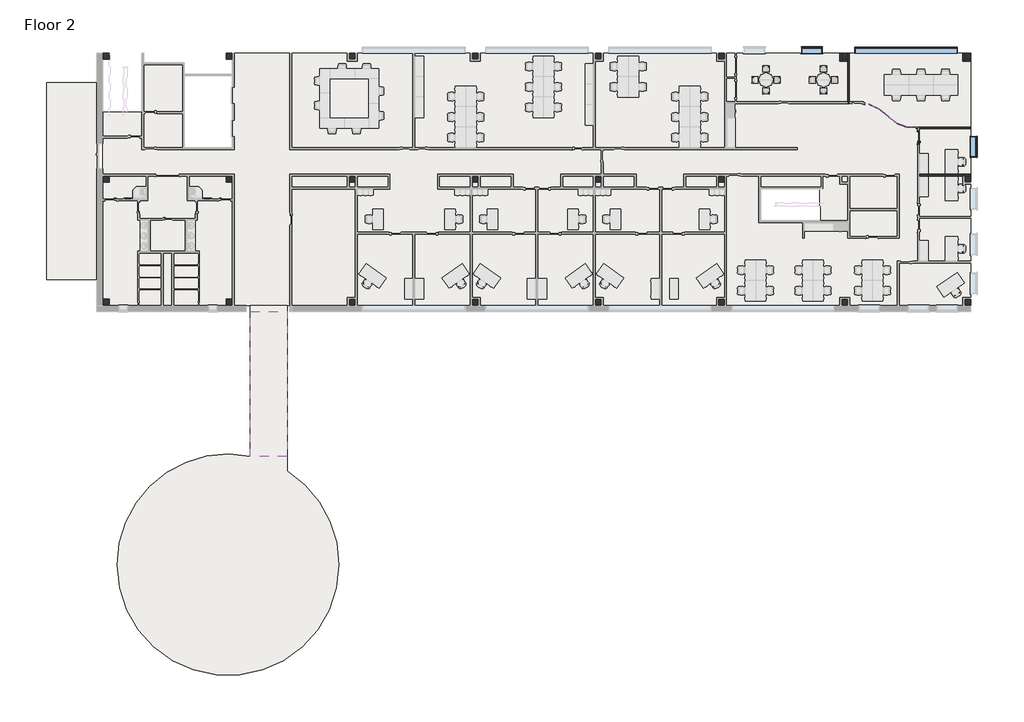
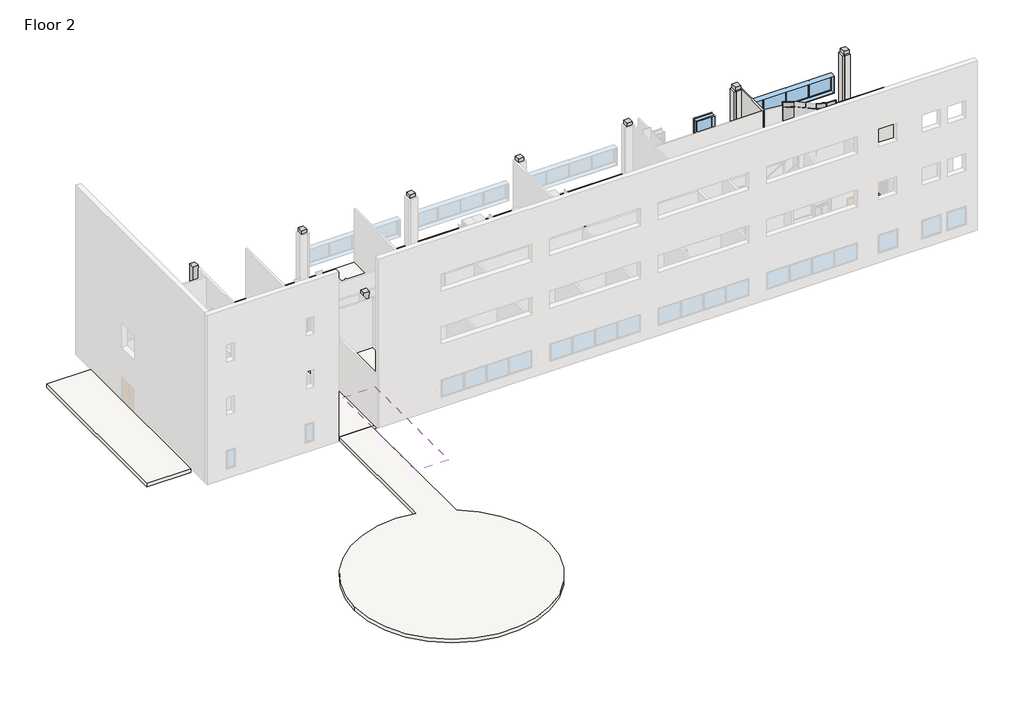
# One storey, part 5 of 7: 25 members, 23 columns, 9 plates, 9 walls, 3 slabs, 3 windows, 1 covering, 1 door.
"""IFC4 building model written with IfcOpenShell, lengths in millimetres."""

from ifc_helpers import new_model, si_unit, point, frame, frame_2d, origin, place, context, project, spatial, polyline, circle_curve, trimmed, segment, composite_curve, outline, extrude, faceted_brep, transform, mapped, element, save
from components import column_f6efb254, door_b5f71497, member_a9d6c361, member_b6f680d5, member_997af995, member_99ddd2ca, member_efb85692, member_ea1833a9, member_f42e476a, member_8995069b, member_c703cf53, member_4057df82, member_b5c0ee63, member_6a737cc0, member_2ca0dabc, member_3a403b9d, member_f4e4bb89, system_panel_glazed_970fcf6f, system_panel_glazed_1b99a4e4, system_panel_glazed_e012e687, system_panel_glazed_c5ee2139, system_panel_glazed_4739128b, system_panel_glazed_f263d929, system_panel_glazed_9a7f91f8, system_panel_glazed_b32ab771, system_panel_glazed_0122b756, window_casement_multi_sash_horizontal_25_x_5ft_0e5d08e3, window_45f0c9e0

model = new_model("IFC4")

# Units and contexts
model_context = context("Model", 3, world=origin())
ifc_project = project(units=[si_unit("LENGTHUNIT", "METRE", prefix="MILLI")], contexts=[model_context])

# Site, building, storey
site = spatial("IfcSite", under=ifc_project)
building = spatial("IfcBuilding", under=site)
storey = spatial("IfcBuildingStorey", under=building, Name="Floor 2", Elevation=5486.4)

# Columns
placement = place(None, origin())
element("IfcColumn", 1, ObjectType="Rectangular Column1 : 18\" x 18\"", at=placement, inside=storey, context=model_context, shape_type="SweptSolid", body=[
    extrude(outline(polyline([(6637.3692024, 39077.111889), (6637.3692024, 38619.911889), (6180.1692024, 38619.911889), (6180.1692024, 39077.111889), (6637.3692024, 39077.111889)])), frame((0.0, 0.0, 5486.4), z_axis=(0.0, 0.0, 1.0), x_axis=(1.0, 0.0, 0.0)), (0.0, 0.0, 1.0), 4724.4),
])
element("IfcColumn", 2, ObjectType="Rectangular Column1 : 18\" x 18\"", at=placement, inside=storey, context=model_context, shape_type="Brep", body=[
    faceted_brep([(15781.3692024, 39077.111889, 10210.8), (15324.1692024, 39077.111889, 10210.8), (15324.1692024, 38619.911889, 10210.8), (15781.3692024, 38619.911889, 10210.8), (15781.3692024, 39077.111889, 5486.4), (15781.3692024, 38619.911889, 5486.4), (15324.1692024, 38619.911889, 5486.4), (15324.1692024, 39077.111889, 5486.4), (15781.3692024, 39077.111889, 9906.0), (15324.1692024, 39077.111889, 9906.0)], [[[0, 1, 2, 3]], [[4, 5, 6, 7]], [[1, 0, 8, 4, 7, 9]], [[2, 1, 9, 7, 6]], [[3, 2, 6, 5]], [[0, 3, 5, 4, 8]]]),
])
element("IfcColumn", 3, ObjectType="Rectangular Column1 : 18\" x 18\"", at=placement, inside=storey, context=model_context, shape_type="Brep", body=[
    faceted_brep([(24925.3692024, 39077.111889, 10210.8), (24468.1692024, 39077.111889, 10210.8), (24468.1692024, 38619.911889, 10210.8), (24925.3692024, 38619.911889, 10210.8), (24925.3692024, 39077.111889, 5486.4), (24925.3692024, 38619.911889, 5486.4), (24468.1692024, 38619.911889, 5486.4), (24468.1692024, 39077.111889, 5486.4), (24925.3692024, 39077.111889, 9906.0), (24468.1692024, 39077.111889, 9906.0)], [[[0, 1, 2, 3]], [[4, 5, 6, 7]], [[1, 0, 8, 4, 7, 9]], [[2, 1, 9, 7, 6]], [[3, 2, 6, 5]], [[0, 3, 5, 4, 8]]]),
])
element("IfcColumn", 4, ObjectType="Rectangular Column1 : 18\" x 18\"", at=placement, inside=storey, context=model_context, shape_type="Brep", body=[
    faceted_brep([(34069.3692024, 39077.111889, 10210.8), (33612.1692024, 39077.111889, 10210.8), (33612.1692024, 38619.911889, 10210.8), (34069.3692024, 38619.911889, 10210.8), (34069.3692024, 39077.111889, 5486.4), (34069.3692024, 38619.911889, 5486.4), (33612.1692024, 38619.911889, 5486.4), (33612.1692024, 39077.111889, 5486.4), (34069.3692024, 39077.111889, 9906.0), (33612.1692024, 39077.111889, 9906.0)], [[[0, 1, 2, 3]], [[4, 5, 6, 7]], [[1, 0, 8, 4, 7, 9]], [[2, 1, 9, 7, 6]], [[3, 2, 6, 5]], [[0, 3, 5, 4, 8]]]),
])
element("IfcColumn", 5, ObjectType="Rectangular Column1 : 18\" x 18\"", at=placement, inside=storey, context=model_context, shape_type="Brep", body=[
    faceted_brep([(43213.3692024, 39077.111889, 10210.8), (42756.1692024, 39077.111889, 10210.8), (42756.1692024, 38619.911889, 10210.8), (43213.3692024, 38619.911889, 10210.8), (43213.3692024, 39077.111889, 5486.4), (43213.3692024, 38619.911889, 5486.4), (42756.1692024, 38619.911889, 5486.4), (42756.1692024, 39077.111889, 5486.4), (43213.3692024, 39077.111889, 9906.0), (42756.1692024, 39077.111889, 9906.0)], [[[0, 1, 2, 3]], [[4, 5, 6, 7]], [[1, 0, 8, 4, 7, 9]], [[2, 1, 9, 7, 6]], [[3, 2, 6, 5]], [[0, 3, 5, 4, 8]]]),
])
element("IfcColumn", 6, ObjectType="Rectangular Column1 : 18\" x 18\"", at=placement, inside=storey, context=model_context, shape_type="Brep", body=[
    faceted_brep([(52357.3692024, 39077.111889, 10210.8), (51900.1692024, 39077.111889, 10210.8), (51900.1692024, 38619.911889, 10210.8), (52357.3692024, 38619.911889, 10210.8), (52357.3692024, 39077.111889, 5486.4), (52357.3692024, 38619.911889, 5486.4), (51900.1692024, 38619.911889, 5486.4), (51900.1692024, 39077.111889, 5486.4), (52357.3692024, 39077.111889, 9906.0), (51900.1692024, 39077.111889, 9906.0)], [[[0, 1, 2, 3]], [[4, 5, 6, 7]], [[1, 0, 8, 4, 7, 9]], [[2, 1, 9, 7, 6]], [[3, 2, 6, 5]], [[0, 3, 5, 4, 8]]]),
])
element("IfcColumn", 7, ObjectType="Rectangular Column1 : 18\" x 18\"", at=placement, inside=storey, context=model_context, shape_type="Brep", body=[
    faceted_brep([(61501.3692024, 39077.111889, 10210.8), (61044.1692024, 39077.111889, 10210.8), (61044.1692024, 38619.911889, 10210.8), (61501.3692024, 38619.911889, 10210.8), (61501.3692024, 39077.111889, 5486.4), (61501.3692024, 38619.911889, 5486.4), (61044.1692024, 38619.911889, 5486.4), (61044.1692024, 39077.111889, 5486.4), (61044.1692024, 39077.111889, 9906.0)], [[[0, 1, 2, 3]], [[4, 5, 6, 7]], [[1, 0, 4, 7, 8]], [[2, 1, 8, 7, 6]], [[3, 2, 6, 5]], [[0, 3, 5, 4]]]),
])
element("IfcColumn", 8, ObjectType="Rectangular Column1 : 18\" x 18\"", at=placement, inside=storey, context=model_context, shape_type="SweptSolid", body=[
    extrude(outline(polyline([(-2506.6307976, 48221.111889), (-2506.6307976, 47763.911889), (-2963.8307976, 47763.911889), (-2963.8307976, 48221.111889), (-2506.6307976, 48221.111889)])), frame((0.0, 0.0, 5486.4), z_axis=(0.0, 0.0, 1.0), x_axis=(1.0, 0.0, 0.0)), (0.0, 0.0, 1.0), 4724.4),
])
element("IfcColumn", 9, ObjectType="Rectangular Column1 : 18\" x 18\"", at=placement, inside=storey, context=model_context, shape_type="SweptSolid", body=[
    extrude(outline(polyline([(6637.3692024, 48221.111889), (6637.3692024, 47763.911889), (6180.1692024, 47763.911889), (6180.1692024, 48221.111889), (6637.3692024, 48221.111889)])), frame((0.0, 0.0, 5486.4), z_axis=(0.0, 0.0, 1.0), x_axis=(1.0, 0.0, 0.0)), (0.0, 0.0, 1.0), 4724.4),
])
element("IfcColumn", 10, ObjectType="Rectangular Column1 : 18\" x 18\"", at=placement, inside=storey, context=model_context, shape_type="Brep", body=[
    faceted_brep([(15781.3692024, 48221.111889, 10210.8), (15324.1692024, 48221.111889, 10210.8), (15324.1692024, 47763.911889, 10210.8), (15781.3692024, 47763.911889, 10210.8), (15781.3692024, 48221.111889, 5486.4), (15781.3692024, 47763.911889, 5486.4), (15324.1692024, 47763.911889, 5486.4), (15324.1692024, 48221.111889, 5486.4), (15781.3692024, 48221.111889, 9906.0), (15324.1692024, 48221.111889, 9906.0)], [[[0, 1, 2, 3]], [[4, 5, 6, 7]], [[1, 0, 8, 4, 7, 9]], [[2, 1, 9, 7, 6]], [[3, 2, 6, 5]], [[0, 3, 5, 4, 8]]]),
])
element("IfcColumn", 11, ObjectType="Rectangular Column1 : 18\" x 18\"", at=placement, inside=storey, context=model_context, shape_type="Brep", body=[
    faceted_brep([(24925.3692024, 48221.111889, 10210.8), (24468.1692024, 48221.111889, 10210.8), (24468.1692024, 47763.911889, 10210.8), (24925.3692024, 47763.911889, 10210.8), (24925.3692024, 48221.111889, 5486.4), (24925.3692024, 47763.911889, 5486.4), (24468.1692024, 47763.911889, 5486.4), (24468.1692024, 48221.111889, 5486.4), (24925.3692024, 48221.111889, 9906.0), (24468.1692024, 48221.111889, 9906.0)], [[[0, 1, 2, 3]], [[4, 5, 6, 7]], [[1, 0, 8, 4, 7, 9]], [[2, 1, 9, 7, 6]], [[3, 2, 6, 5]], [[0, 3, 5, 4, 8]]]),
])
element("IfcColumn", 12, ObjectType="Rectangular Column1 : 18\" x 18\"", at=placement, inside=storey, context=model_context, shape_type="Brep", body=[
    faceted_brep([(34069.3692024, 48221.111889, 10210.8), (33612.1692024, 48221.111889, 10210.8), (33612.1692024, 47763.911889, 10210.8), (34069.3692024, 47763.911889, 10210.8), (34069.3692024, 48221.111889, 5486.4), (34069.3692024, 47763.911889, 5486.4), (33612.1692024, 47763.911889, 5486.4), (33612.1692024, 48221.111889, 5486.4), (34069.3692024, 48221.111889, 9906.0), (33612.1692024, 48221.111889, 9906.0)], [[[0, 1, 2, 3]], [[4, 5, 6, 7]], [[1, 0, 8, 4, 7, 9]], [[2, 1, 9, 7, 6]], [[3, 2, 6, 5]], [[0, 3, 5, 4, 8]]]),
])
element("IfcColumn", 13, ObjectType="Rectangular Column1 : 18\" x 18\"", at=placement, inside=storey, context=model_context, shape_type="Brep", body=[
    faceted_brep([(43213.3692024, 48221.111889, 10210.8), (42756.1692024, 48221.111889, 10210.8), (42756.1692024, 47763.911889, 10210.8), (43213.3692024, 47763.911889, 10210.8), (43213.3692024, 48221.111889, 5486.4), (43213.3692024, 47763.911889, 5486.4), (42756.1692024, 47763.911889, 5486.4), (42756.1692024, 48221.111889, 5486.4), (43213.3692024, 48221.111889, 9906.0), (42756.1692024, 48221.111889, 9906.0)], [[[0, 1, 2, 3]], [[4, 5, 6, 7]], [[1, 0, 8, 4, 7, 9]], [[2, 1, 9, 7, 6]], [[3, 2, 6, 5]], [[0, 3, 5, 4, 8]]]),
])
element("IfcColumn", 14, ObjectType="Rectangular Column1 : 18\" x 18\"", at=placement, inside=storey, context=model_context, shape_type="Brep", body=[
    faceted_brep([(61501.3692024, 48221.111889, 10210.8), (61044.1692024, 48221.111889, 10210.8), (61044.1692024, 47763.911889, 10210.8), (61501.3692024, 47763.911889, 10210.8), (61501.3692024, 48221.111889, 5486.4), (61501.3692024, 47763.911889, 5486.4), (61044.1692024, 47763.911889, 5486.4), (61044.1692024, 48221.111889, 5486.4), (61044.1692024, 48221.111889, 9906.0), (61044.1692024, 47763.911889, 9906.0)], [[[0, 1, 2, 3]], [[4, 5, 6, 7]], [[1, 0, 4, 7, 8]], [[2, 1, 8, 7, 6, 9]], [[3, 2, 9, 6, 5]], [[0, 3, 5, 4]]]),
])
element("IfcColumn", 15, ObjectType="Rectangular Column1 : 18\" x 18\"", at=placement, inside=storey, context=model_context, shape_type="SweptSolid", body=[
    extrude(outline(polyline([(6637.3692024, 57365.111889), (6637.3692024, 56907.911889), (6180.1692024, 56907.911889), (6180.1692024, 57365.111889), (6637.3692024, 57365.111889)])), frame((0.0, 0.0, 5486.4), z_axis=(0.0, 0.0, 1.0), x_axis=(1.0, 0.0, 0.0)), (0.0, 0.0, 1.0), 4724.4),
])
element("IfcColumn", 16, ObjectType="Rectangular Column1 : 18\" x 18\"", at=placement, inside=storey, context=model_context, shape_type="Brep", body=[
    faceted_brep([(15781.3692024, 57365.111889, 10210.8), (15324.1692024, 57365.111889, 10210.8), (15324.1692024, 56907.911889, 10210.8), (15781.3692024, 56907.911889, 10210.8), (15781.3692024, 57365.111889, 5486.4), (15781.3692024, 56907.911889, 5486.4), (15324.1692024, 56907.911889, 5486.4), (15324.1692024, 57365.111889, 5486.4), (15324.1692024, 56907.911889, 9906.0), (15781.3692024, 56907.911889, 9906.0)], [[[0, 1, 2, 3]], [[4, 5, 6, 7]], [[1, 0, 4, 7]], [[2, 1, 7, 6, 8]], [[3, 2, 8, 6, 5, 9]], [[0, 3, 9, 5, 4]]]),
])
element("IfcColumn", 17, ObjectType="Rectangular Column1 : 18\" x 18\"", at=placement, inside=storey, context=model_context, shape_type="Brep", body=[
    faceted_brep([(24925.3692024, 57365.111889, 10210.8), (24468.1692024, 57365.111889, 10210.8), (24468.1692024, 56907.911889, 10210.8), (24925.3692024, 56907.911889, 10210.8), (24925.3692024, 57365.111889, 5486.4), (24925.3692024, 56907.911889, 5486.4), (24468.1692024, 56907.911889, 5486.4), (24468.1692024, 57365.111889, 5486.4), (24468.1692024, 56907.911889, 9906.0), (24925.3692024, 56907.911889, 9906.0)], [[[0, 1, 2, 3]], [[4, 5, 6, 7]], [[1, 0, 4, 7]], [[2, 1, 7, 6, 8]], [[3, 2, 8, 6, 5, 9]], [[0, 3, 9, 5, 4]]]),
])
element("IfcColumn", 18, ObjectType="Rectangular Column1 : 18\" x 18\"", at=placement, inside=storey, context=model_context, shape_type="Brep", body=[
    faceted_brep([(34069.3692024, 57365.111889, 10210.8), (33612.1692024, 57365.111889, 10210.8), (33612.1692024, 56907.911889, 10210.8), (34069.3692024, 56907.911889, 10210.8), (34069.3692024, 57365.111889, 5486.4), (34069.3692024, 56907.911889, 5486.4), (33612.1692024, 56907.911889, 5486.4), (33612.1692024, 57365.111889, 5486.4), (33612.1692024, 56907.911889, 9906.0), (34069.3692024, 56907.911889, 9906.0)], [[[0, 1, 2, 3]], [[4, 5, 6, 7]], [[1, 0, 4, 7]], [[2, 1, 7, 6, 8]], [[3, 2, 8, 6, 5, 9]], [[0, 3, 9, 5, 4]]]),
])
element("IfcColumn", 19, ObjectType="Rectangular Column1 : 18\" x 18\"", at=placement, inside=storey, context=model_context, shape_type="Brep", body=[
    faceted_brep([(43213.3692024, 57365.111889, 10210.8), (42756.1692024, 57365.111889, 10210.8), (42756.1692024, 56907.911889, 10210.8), (43213.3692024, 56907.911889, 10210.8), (43213.3692024, 57365.111889, 5486.4), (43213.3692024, 56907.911889, 5486.4), (42756.1692024, 56907.911889, 5486.4), (42756.1692024, 57365.111889, 5486.4), (42756.1692024, 56907.911889, 9906.0), (43213.3692024, 56907.911889, 9906.0)], [[[0, 1, 2, 3]], [[4, 5, 6, 7]], [[1, 0, 4, 7]], [[2, 1, 7, 6, 8]], [[3, 2, 8, 6, 5, 9]], [[0, 3, 9, 5, 4]]]),
])
element("IfcColumn", 20, ObjectType="Rectangular Column1 : 18\" x 18\"", at=placement, inside=storey, context=model_context, shape_type="Brep", body=[
    faceted_brep([(52357.3692024, 57365.111889, 10210.8), (51900.1692024, 57365.111889, 10210.8), (51900.1692024, 56907.911889, 10210.8), (52357.3692024, 56907.911889, 10210.8), (52357.3692024, 57365.111889, 5486.4), (52357.3692024, 56907.911889, 5486.4), (51900.1692024, 56907.911889, 5486.4), (51900.1692024, 57365.111889, 5486.4), (51900.1692024, 56907.911889, 9906.0)], [[[0, 1, 2, 3]], [[4, 5, 6, 7]], [[1, 0, 4, 7]], [[2, 1, 7, 6, 8]], [[3, 2, 8, 6, 5]], [[0, 3, 5, 4]]]),
])
element("IfcColumn", 21, ObjectType="Rectangular Column1 : 18\" x 18\"", at=placement, inside=storey, context=model_context, shape_type="Brep", body=[
    faceted_brep([(61501.3692024, 57365.111889, 10210.8), (61044.1692024, 57365.111889, 10210.8), (61044.1692024, 56907.911889, 10210.8), (61501.3692024, 56907.911889, 10210.8), (61501.3692024, 57365.111889, 5486.4), (61501.3692024, 56907.911889, 5486.4), (61044.1692024, 56907.911889, 5486.4), (61044.1692024, 57365.111889, 5486.4), (61044.1692024, 56907.911889, 9906.0)], [[[0, 1, 2, 3]], [[4, 5, 6, 7]], [[1, 0, 4, 7]], [[2, 1, 7, 6, 8]], [[3, 2, 8, 6, 5]], [[0, 3, 5, 4]]]),
])
column_shape = column_f6efb254(model_context)
element("IfcColumn", 22, ObjectType="Rectangular Column1 : 18\" x 18\"", at=placement, inside=storey, context=model_context, shape_type="MappedRepresentation", body=[
    mapped(column_shape, transform((-2735.2307976, 38848.511889, 0.0), x_axis=(1.0, 0.0, 0.0), y_axis=(0.0, 1.0, 0.0), z_axis=(0.0, 0.0, 1.0))),
])
element("IfcColumn", 23, ObjectType="Rectangular Column1 : 18\" x 18\"", at=placement, inside=storey, context=model_context, shape_type="MappedRepresentation", body=[
    mapped(column_shape, transform((-2735.2307976, 57136.511889, 0.0), x_axis=(1.0, 0.0, 0.0), y_axis=(0.0, 1.0, 0.0), z_axis=(0.0, 0.0, 1.0))),
])

# Covering
element("IfcCovering", 24, ObjectType="2' x 2' ACT System", at=placement, inside=storey, context=model_context, shape_type="SweptSolid", body=[
    extrude(outline(polyline([(7986.4026119, 38164.299389), (10723.2526119, 38164.299389), (10723.2526119, 27403.0208402), (7986.4026119, 27403.0208402), (7986.4026119, 38164.299389)])), frame((0.0, 0.0, 9296.4), z_axis=(0.0, 0.0, 1.0), x_axis=(1.0, 0.0, 0.0)), (0.0, 0.0, 1.0), 57.15),
])

# Door
door_shape = door_b5f71497(model_context)
element("IfcDoor", 25, ObjectType="Door-Passage-Single-Full_Lite : 36\" x 84\"", at=placement, inside=storey, context=model_context, shape_type="MappedRepresentation", body=[
    mapped(door_shape, transform((57608.8192024, 51084.961889, 5486.4), x_axis=(0.0, 1.0, 0.0), y_axis=(-1.0, 0.0, 0.0), z_axis=(0.0, 0.0, 1.0))),
])

# Members
member_shape = member_a9d6c361(model_context)
element("IfcMember", 26, ObjectType="Rectangular Mullion1 : 1\" Square", at=placement, inside=storey, context=model_context, shape_type="MappedRepresentation", body=[
    mapped(member_shape, transform((54710.7323367, 53173.4561221, 10210.8), x_axis=(0.0, 0.0, 1.0), y_axis=(-0.43160178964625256, -0.9020642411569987, 0.0), z_axis=(0.9020642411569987, -0.43160178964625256, 0.0))),
])
element("IfcMember", 27, ObjectType="Rectangular Mullion1 : 1\" Square", at=placement, inside=storey, context=model_context, shape_type="MappedRepresentation", body=[
    mapped(member_shape, transform((54710.7323367, 53173.4561221, 5486.4), x_axis=(0.0, 0.0, -1.0), y_axis=(-0.6484934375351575, -0.7612202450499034, 0.0), z_axis=(-0.7612202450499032, 0.6484934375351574, 0.0))),
])
member_2_shape = member_b6f680d5(model_context)
element("IfcMember", 28, ObjectType="Rectangular Mullion1 : 1\" Square", at=placement, inside=storey, context=model_context, shape_type="MappedRepresentation", body=[
    mapped(member_2_shape, transform((54710.7323367, 53173.4561221, 7620.0), x_axis=(0.0, 0.0, 1.0), y_axis=(-0.43160178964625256, -0.9020642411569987, 0.0), z_axis=(0.9020642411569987, -0.43160178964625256, 0.0))),
])
member_3_shape = member_997af995(model_context)
element("IfcMember", 29, ObjectType="Rectangular Mullion1 : 1\" Square", at=placement, inside=storey, context=model_context, shape_type="MappedRepresentation", body=[
    mapped(member_3_shape, transform((54710.7323367, 53173.4561221, 5511.8), x_axis=(0.8386830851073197, -0.5446197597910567, 0.0), y_axis=(-0.5446197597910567, -0.8386830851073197, 0.0), z_axis=(0.0, 0.0, -1.0))),
])
element("IfcMember", 30, ObjectType="Rectangular Mullion1 : 1\" Square", at=placement, inside=storey, context=model_context, shape_type="MappedRepresentation", body=[
    mapped(member_3_shape, transform((56698.1784145, 51849.7586549, 5511.8), x_axis=(0.9787526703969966, -0.20504441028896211, 0.0), y_axis=(-0.20504441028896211, -0.9787526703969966, 0.0), z_axis=(0.0, 0.0, -1.0))),
])
member_4_shape = member_99ddd2ca(model_context)
element("IfcMember", 31, ObjectType="Rectangular Mullion1 : 1\" Square", at=placement, inside=storey, context=model_context, shape_type="MappedRepresentation", body=[
    mapped(member_4_shape, transform((54710.7323367, 53173.4561221, 7632.7), x_axis=(0.8386830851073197, -0.5446197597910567, 0.0), y_axis=(-0.5446197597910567, -0.8386830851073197, 0.0), z_axis=(0.0, 0.0, -1.0))),
])
element("IfcMember", 32, ObjectType="Rectangular Mullion1 : 1\" Square", at=placement, inside=storey, context=model_context, shape_type="MappedRepresentation", body=[
    mapped(member_4_shape, transform((56698.1784145, 51849.7586549, 7632.7), x_axis=(0.9787526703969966, -0.20504441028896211, 0.0), y_axis=(-0.20504441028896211, -0.9787526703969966, 0.0), z_axis=(0.0, 0.0, -1.0))),
])
member_5_shape = member_efb85692(model_context)
element("IfcMember", 33, ObjectType="Rectangular Mullion1 : 1\" Square", at=placement, inside=storey, context=model_context, shape_type="MappedRepresentation", body=[
    mapped(member_5_shape, transform((54710.7323367, 53173.4561221, 9766.3), x_axis=(0.8386830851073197, -0.5446197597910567, 0.0), y_axis=(-0.5446197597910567, -0.8386830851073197, 0.0), z_axis=(0.0, 0.0, -1.0))),
])
element("IfcMember", 34, ObjectType="Rectangular Mullion1 : 1\" Square", at=placement, inside=storey, context=model_context, shape_type="MappedRepresentation", body=[
    mapped(member_5_shape, transform((55973.7447178, 52125.501763, 9766.3), x_axis=(0.867376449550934, -0.4976525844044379, 0.0), y_axis=(-0.4976525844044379, -0.867376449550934, 0.0), z_axis=(0.0, 0.0, -1.0))),
])
element("IfcMember", 35, ObjectType="Rectangular Mullion1 : 1\" Square", at=placement, inside=storey, context=model_context, shape_type="MappedRepresentation", body=[
    mapped(member_5_shape, transform((56698.1784145, 51849.7586549, 9766.3), x_axis=(0.9787526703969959, -0.20504441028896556, 0.0), y_axis=(-0.20504441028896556, -0.9787526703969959, 0.0), z_axis=(0.0, 0.0, -1.0))),
])
element("IfcMember", 36, ObjectType="Rectangular Mullion1 : 1\" Square", at=placement, inside=storey, context=model_context, shape_type="MappedRepresentation", body=[
    mapped(member_2_shape, transform((54710.7323367, 53173.4561221, 9753.6), x_axis=(0.0, 0.0, 1.0), y_axis=(-0.43160178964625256, -0.9020642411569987, 0.0), z_axis=(0.9020642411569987, -0.43160178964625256, 0.0))),
])
member_6_shape = member_ea1833a9(model_context)
element("IfcMember", 37, ObjectType="Rectangular Mullion1 : 1\" Square", at=placement, inside=storey, context=model_context, shape_type="MappedRepresentation", body=[
    mapped(member_6_shape, transform((55350.7495626, 52628.2171146, 9753.6), x_axis=(0.0, 0.0, 1.0), y_axis=(-0.6484934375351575, -0.7612202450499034, 0.0), z_axis=(0.7612202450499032, -0.6484934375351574, 0.0))),
])
member_7_shape = member_f42e476a(model_context)
element("IfcMember", 38, ObjectType="Rectangular Mullion1 : 1\" Square", at=placement, inside=storey, context=model_context, shape_type="MappedRepresentation", body=[
    mapped(member_7_shape, transform((57472.373613, 51811.5455547, 10210.8), x_axis=(0.0, 0.0, 1.0), y_axis=(-0.049298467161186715, -0.9987840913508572, 0.0), z_axis=(0.9987840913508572, -0.049298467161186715, 0.0))),
])
member_8_shape = member_8995069b(model_context)
element("IfcMember", 39, ObjectType="Rectangular Mullion1 : 1\" Square", at=placement, inside=storey, context=model_context, shape_type="MappedRepresentation", body=[
    mapped(member_8_shape, transform((56698.1784145, 51849.7586549, 10210.8), x_axis=(0.0, 0.0, 1.0), y_axis=(-0.3557343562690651, -0.9345871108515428, 0.0), z_axis=(0.9345871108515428, -0.3557343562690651, 0.0))),
])
member_9_shape = member_c703cf53(model_context)
element("IfcMember", 40, ObjectType="Rectangular Mullion1 : 1\" Square", at=placement, inside=storey, context=model_context, shape_type="MappedRepresentation", body=[
    mapped(member_9_shape, transform((56698.1784145, 51849.7586549, 5486.4), x_axis=(0.0, 0.0, -1.0), y_axis=(-0.049298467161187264, -0.9987840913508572, 0.0), z_axis=(-0.9987840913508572, 0.049298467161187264, 0.0))),
])
member_10_shape = member_4057df82(model_context)
element("IfcMember", 41, ObjectType="Rectangular Mullion1 : 1\" Square", at=placement, inside=storey, context=model_context, shape_type="MappedRepresentation", body=[
    mapped(member_10_shape, transform((56698.1784145, 51849.7586549, 7620.0), x_axis=(0.0, 0.0, 1.0), y_axis=(-0.3557343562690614, -0.9345871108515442, 0.0), z_axis=(0.9345871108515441, -0.35573435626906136, 0.0))),
])
element("IfcMember", 42, ObjectType="Rectangular Mullion1 : 1\" Square", at=placement, inside=storey, context=model_context, shape_type="MappedRepresentation", body=[
    mapped(member_10_shape, transform((56698.1784145, 51849.7586549, 9753.6), x_axis=(0.0, 0.0, 1.0), y_axis=(-0.3557343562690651, -0.9345871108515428, 0.0), z_axis=(0.9345871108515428, -0.3557343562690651, 0.0))),
])
member_11_shape = member_b5c0ee63(model_context)
element("IfcMember", 43, ObjectType="Rectangular Mullion1 : 1\" Square", at=placement, inside=storey, context=model_context, shape_type="MappedRepresentation", body=[
    mapped(member_11_shape, transform((57447.0044971, 51812.7977357, 7620.0), x_axis=(0.0, 0.0, 1.0), y_axis=(-0.049298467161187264, -0.9987840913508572, 0.0), z_axis=(0.9987840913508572, -0.049298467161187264, 0.0))),
])
member_12_shape = member_6a737cc0(model_context)
element("IfcMember", 44, ObjectType="Rectangular Mullion1 : 1\" Square", at=placement, inside=storey, context=model_context, shape_type="MappedRepresentation", body=[
    mapped(member_12_shape, transform((55973.7447178, 52125.501763, 9753.6), x_axis=(0.0, 0.0, 1.0), y_axis=(-0.6272996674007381, -0.7787779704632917, 0.0), z_axis=(0.7787779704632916, -0.627299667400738, 0.0))),
])
element("IfcMember", 45, ObjectType="Rectangular Mullion1 : 1\" Square", at=placement, inside=storey, context=model_context, shape_type="MappedRepresentation", body=[
    mapped(member_11_shape, transform((57447.0044971, 51812.7977357, 9753.6), x_axis=(0.0, 0.0, 1.0), y_axis=(-0.049298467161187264, -0.9987840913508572, 0.0), z_axis=(0.9987840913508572, -0.049298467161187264, 0.0))),
])
member_13_shape = member_2ca0dabc(model_context)
element("IfcMember", 46, ObjectType="Rectangular Mullion1 : 1\" Square", at=placement, inside=storey, context=model_context, shape_type="MappedRepresentation", body=[
    mapped(member_13_shape, transform((57472.373613, 51811.5455547, 5511.8), x_axis=(0.9987840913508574, -0.0492984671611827, 0.0), y_axis=(-0.0492984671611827, -0.9987840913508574, 0.0), z_axis=(0.0, 0.0, -1.0))),
])
member_14_shape = member_3a403b9d(model_context)
element("IfcMember", 47, ObjectType="Rectangular Mullion1 : 1\" Square", at=placement, inside=storey, context=model_context, shape_type="MappedRepresentation", body=[
    mapped(member_14_shape, transform((57472.373613, 51811.5455547, 7620.0), x_axis=(0.9987840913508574, -0.0492984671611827, 0.0), y_axis=(-0.0492984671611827, -0.9987840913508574, 0.0), z_axis=(0.0, 0.0, -1.0))),
])
member_15_shape = member_f4e4bb89(model_context)
element("IfcMember", 48, ObjectType="Rectangular Mullion1 : 1\" Square", at=placement, inside=storey, context=model_context, shape_type="MappedRepresentation", body=[
    mapped(member_15_shape, transform((55370.0845568, 52611.7453813, 9753.6), x_axis=(0.7612202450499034, -0.6484934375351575, 0.0), y_axis=(-0.6484934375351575, -0.7612202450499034, 0.0), z_axis=(0.0, 0.0, -1.0))),
])
element("IfcMember", 49, ObjectType="Rectangular Mullion1 : 1\" Square", at=placement, inside=storey, context=model_context, shape_type="MappedRepresentation", body=[
    mapped(member_15_shape, transform((57472.373613, 51811.5455547, 9753.6), x_axis=(0.9987840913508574, -0.049298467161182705, 0.0), y_axis=(-0.049298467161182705, -0.9987840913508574, 0.0), z_axis=(0.0, 0.0, -1.0))),
])
element("IfcMember", 50, ObjectType="Rectangular Mullion1 : 1\" Square", at=placement, inside=storey, context=model_context, shape_type="MappedRepresentation", body=[
    mapped(member_14_shape, transform((55370.0845568, 52611.7453813, 9753.6), x_axis=(-0.7787779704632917, 0.6272996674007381, 0.0), y_axis=(-0.6272996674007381, -0.7787779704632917, 0.0), z_axis=(0.0, 0.0, 1.0))),
])

# Plates
system_panel_glazed_shape = system_panel_glazed_970fcf6f(model_context)
element("IfcPlate", 51, ObjectType="System Panel : Glazed", at=placement, inside=storey, context=model_context, shape_type="MappedRepresentation", body=[
    mapped(system_panel_glazed_shape, transform((54325.7863501, 53357.6374355, 5511.8), x_axis=(0.9020642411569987, -0.43160178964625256, 0.0), y_axis=(0.43160178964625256, 0.9020642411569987, 0.0), z_axis=(0.0, 0.0, 1.0))),
])
system_panel_glazed_2_shape = system_panel_glazed_1b99a4e4(model_context)
element("IfcPlate", 52, ObjectType="System Panel : Glazed", at=placement, inside=storey, context=model_context, shape_type="MappedRepresentation", body=[
    mapped(system_panel_glazed_2_shape, transform((54325.7863501, 53357.6374355, 7632.7), x_axis=(0.9020642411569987, -0.43160178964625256, 0.0), y_axis=(0.43160178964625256, 0.9020642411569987, 0.0), z_axis=(0.0, 0.0, 1.0))),
])
system_panel_glazed_3_shape = system_panel_glazed_e012e687(model_context)
element("IfcPlate", 53, ObjectType="System Panel : Glazed", at=placement, inside=storey, context=model_context, shape_type="MappedRepresentation", body=[
    mapped(system_panel_glazed_3_shape, transform((57078.9337348, 51830.96515, 5511.8), x_axis=(0.9987840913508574, -0.0492984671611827, 0.0), y_axis=(0.0492984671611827, 0.9987840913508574, 0.0), z_axis=(0.0, 0.0, 1.0))),
])
system_panel_glazed_4_shape = system_panel_glazed_c5ee2139(model_context)
element("IfcPlate", 54, ObjectType="System Panel : Glazed", at=placement, inside=storey, context=model_context, shape_type="MappedRepresentation", body=[
    mapped(system_panel_glazed_4_shape, transform((56335.9615662, 51987.6302089, 5511.8), x_axis=(0.9345871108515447, -0.35573435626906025, 0.0), y_axis=(0.35573435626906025, 0.9345871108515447, 0.0), z_axis=(0.0, 0.0, 1.0))),
])
system_panel_glazed_5_shape = system_panel_glazed_4739128b(model_context)
element("IfcPlate", 55, ObjectType="System Panel : Glazed", at=placement, inside=storey, context=model_context, shape_type="MappedRepresentation", body=[
    mapped(system_panel_glazed_5_shape, transform((57078.9337348, 51830.96515, 7632.7), x_axis=(0.9987840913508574, -0.0492984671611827, 0.0), y_axis=(0.0492984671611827, 0.9987840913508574, 0.0), z_axis=(0.0, 0.0, 1.0))),
])
system_panel_glazed_6_shape = system_panel_glazed_f263d929(model_context)
element("IfcPlate", 56, ObjectType="System Panel : Glazed", at=placement, inside=storey, context=model_context, shape_type="MappedRepresentation", body=[
    mapped(system_panel_glazed_6_shape, transform((56335.9615662, 51987.6302089, 7632.7), x_axis=(0.9345871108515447, -0.35573435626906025, 0.0), y_axis=(0.35573435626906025, 0.9345871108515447, 0.0), z_axis=(0.0, 0.0, 1.0))),
])
system_panel_glazed_7_shape = system_panel_glazed_9a7f91f8(model_context)
element("IfcPlate", 57, ObjectType="System Panel : Glazed", at=placement, inside=storey, context=model_context, shape_type="MappedRepresentation", body=[
    mapped(system_panel_glazed_7_shape, transform((54325.7863501, 53357.6374355, 9766.3), x_axis=(0.9020642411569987, -0.43160178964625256, 0.0), y_axis=(0.43160178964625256, 0.9020642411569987, 0.0), z_axis=(0.0, 0.0, 1.0))),
])
system_panel_glazed_8_shape = system_panel_glazed_b32ab771(model_context)
element("IfcPlate", 58, ObjectType="System Panel : Glazed", at=placement, inside=storey, context=model_context, shape_type="MappedRepresentation", body=[
    mapped(system_panel_glazed_8_shape, transform((57078.9337348, 51830.96515, 9766.3), x_axis=(0.9987840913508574, -0.049298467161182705, 0.0), y_axis=(0.049298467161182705, 0.9987840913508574, 0.0), z_axis=(0.0, 0.0, 1.0))),
])
system_panel_glazed_9_shape = system_panel_glazed_0122b756(model_context)
element("IfcPlate", 59, ObjectType="System Panel : Glazed", at=placement, inside=storey, context=model_context, shape_type="MappedRepresentation", body=[
    mapped(system_panel_glazed_9_shape, transform((56335.9615662, 51987.6302089, 9766.3), x_axis=(0.9345871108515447, -0.35573435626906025, 0.0), y_axis=(0.35573435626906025, 0.9345871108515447, 0.0), z_axis=(0.0, 0.0, 1.0))),
])

# Slabs
element("IfcSlab", 60, ObjectType="Generic - 12\"", at=placement, inside=storey, context=model_context, shape_type="SweptSolid", body=[
    extrude(outline(polyline([(-7151.6557976, 55152.136889), (-3419.8227165, 55152.136889), (-3419.8227165, 40528.086889), (-7151.6557976, 40528.086889), (-7151.6557976, 55152.136889)])), frame((0.0, 0.0, 5181.6), z_axis=(0.0, 0.0, 1.0), x_axis=(1.0, 0.0, 0.0)), (0.0, 0.0, 1.0), 304.8),
])
element("IfcSlab", 61, ObjectType="Generic - 12\"", at=placement, inside=storey, context=model_context, shape_type="SweptSolid", body=[
    extrude(outline(composite_curve([segment(trimmed(circle_curve(frame_2d((6332.5692024, 19341.311889)), 8229.6), [point((10723.2526119, 26301.787114))], [point((14562.1692024, 19341.311889))], False, "CARTESIAN"), True, "CONTINUOUS"), segment(trimmed(circle_curve(frame_2d((6332.5692024, 19341.311889)), 8229.6), [point((14562.1692024, 19341.311889))], [point((-1897.0307976, 19341.311889))], False, "CARTESIAN"), True, "CONTINUOUS"), segment(trimmed(circle_curve(frame_2d((6332.5692024, 19341.311889)), 8229.6), [point((-1897.0307976, 19341.311889))], [point((7986.4026119, 27403.0208402))], False, "CARTESIAN"), True, "CONTINUOUS"), segment(polyline([(7986.4026119, 27403.0208402), (7986.4026119, 38618.324389), (10723.2526119, 38618.324389), (10723.2526119, 26301.787114)]), True, "CONTINUOUS")], self_intersect=False)), frame((0.0, 0.0, 5181.6), z_axis=(0.0, 0.0, 1.0), x_axis=(1.0, 0.0, 0.0)), (0.0, 0.0, 1.0), 304.8),
])
element("IfcSlab", 62, ObjectType="Generic - 12\"", at=placement, inside=storey, context=model_context, shape_type="SweptSolid", body=[
    extrude(outline(polyline([(61502.9567024, 57366.699389), (61502.9567024, 38618.324389), (-2965.7977165, 38618.324389), (-2965.7977165, 52970.911889), (-61.8807976, 52970.911889), (-61.8807976, 56653.911889), (3094.0692024, 56653.911889), (3094.0692024, 50329.311889), (6637.3692024, 50329.311889), (6637.3692024, 57366.699389), (61502.9567024, 57366.699389)]), holes=[polyline([(50253.8139908, 47262.261889), (45899.4192024, 47262.261889), (45899.4192024, 44906.411889), (50327.5398084, 44906.411889), (50327.5398084, 45997.2030566), (50253.8139908, 45997.2030566), (50253.8139908, 47262.261889)])]), frame((0.0, 0.0, 5181.6), z_axis=(0.0, 0.0, 1.0), x_axis=(1.0, 0.0, 0.0)), (0.0, 0.0, 1.0), 304.8),
])

# Walls
element("IfcWall", 63, ObjectType="Interior - 4 7/8\" Partition (1-hr)", at=placement, inside=storey, context=model_context, shape_type="Brep", body=[
    faceted_brep([(52489.1317024, 53620.199389, 5486.4), (52489.1317024, 53627.7357637, 5486.4), (52489.1317024, 53752.4422892, 5486.4), (52489.1317024, 57366.699389, 5486.4), (52489.1317024, 57366.699389, 9906.0), (52489.1317024, 53752.4422892, 9906.0), (52489.1317024, 53627.7357637, 9906.0), (52489.1317024, 53620.199389, 9906.0), (52365.3067024, 53620.199389, 5486.4), (52365.3067024, 53620.199389, 9906.0), (52365.3067024, 53744.024389, 9906.0), (52365.3067024, 56768.211889, 9906.0), (52365.3067024, 56907.911889, 9906.0), (52365.3067024, 57366.699389, 9906.0), (52365.3067024, 57366.699389, 5486.4), (52365.3067024, 56907.911889, 5486.4), (52365.3067024, 56768.211889, 5486.4), (52365.3067024, 53744.024389, 5486.4)], [[[0, 1, 2, 3, 4, 5, 6, 7]], [[8, 9, 10, 11, 12, 13, 14, 15, 16, 17]], [[3, 2, 1, 0, 8, 17, 16, 15, 14]], [[0, 7, 9, 8]], [[4, 3, 14, 13]], [[7, 6, 5, 4, 13, 12, 11, 10, 9]]]),
])
element("IfcWall", 64, ObjectType="Interior - 4 7/8\" Partition (1-hr)", at=placement, inside=storey, context=model_context, shape_type="SweptSolid", body=[
    extrude(outline(polyline([(61502.9567024, 51734.249389), (57677.0817024, 51734.249389), (57677.0817024, 51858.074389), (61502.9567024, 51858.074389), (61502.9567024, 51734.249389)])), frame((0.0, 0.0, 5486.4), z_axis=(0.0, 0.0, 1.0), x_axis=(1.0, 0.0, 0.0)), (0.0, 0.0, 1.0), 4419.6),
])
element("IfcWall", 65, ObjectType="Interior - 4 7/8\" Partition (1-hr)", at=placement, inside=storey, context=model_context, shape_type="SweptSolid", body=[
    extrude(outline(polyline([(57677.0817024, 48359.224389), (60904.4692024, 48359.224389), (60904.4692024, 48235.399389), (57677.0817024, 48235.399389), (57677.0817024, 48359.224389)])), frame((0.0, 0.0, 5486.4), z_axis=(0.0, 0.0, 1.0), x_axis=(1.0, 0.0, 0.0)), (0.0, 0.0, 1.0), 4419.6),
])
element("IfcWall", 66, ObjectType="Interior - 4 7/8\" Partition (1-hr)", at=placement, inside=storey, context=model_context, shape_type="SweptSolid", body=[
    extrude(outline(composite_curve([segment(polyline([(57618.0176704, 51858.074389), (57553.2567024, 51858.074389), (57553.2567024, 51740.023538)]), True, "CONTINUOUS"), segment(trimmed(circle_curve(frame_2d((58034.3100922, 56357.174244)), 4642.1431479), [point((57553.2567024, 51740.023538))], [point((57464.7777308, 51750.1007808))], False, "CARTESIAN"), True, "CONTINUOUS"), segment(polyline([(57464.7777308, 51750.1007808), (57479.9694951, 51872.9903285)]), True, "CONTINUOUS"), segment(trimmed(circle_curve(frame_2d((58034.3100922, 56357.174244)), 4518.3181479), [point((57479.9694951, 51872.9903285))], [point((57618.0176704, 51858.074389))], True, "CARTESIAN"), True, "CONTINUOUS")], self_intersect=False)), frame((0.0, 0.0, 5486.4), z_axis=(0.0, 0.0, 1.0), x_axis=(1.0, 0.0, 0.0)), (0.0, 0.0, 1.0), 4419.6),
])
element("IfcWall", 67, ObjectType="Interior - 5 1/2\" Partition (1-hr)", at=placement, inside=storey, context=model_context, shape_type="Brep", body=[
    faceted_brep([(51760.4692024, 57366.699389, 5486.4), (51760.4692024, 56768.211889, 5486.4), (51760.4692024, 56768.211889, 9906.0), (51760.4692024, 57366.699389, 9906.0), (51900.1692024, 57366.699389, 5486.4), (51900.1692024, 57366.699389, 9906.0), (51900.1692024, 56907.911889, 9906.0), (51900.1692024, 56768.211889, 9906.0), (51900.1692024, 56768.211889, 5486.4), (51900.1692024, 56907.911889, 5486.4), (51900.1692024, 57365.111889, 5486.4)], [[[0, 1, 2, 3]], [[4, 5, 6, 7, 8, 9, 10]], [[1, 0, 4, 10, 9, 8]], [[2, 1, 8, 7]], [[0, 3, 5, 4]], [[3, 2, 7, 6, 5]]]),
])
element("IfcWall", 68, ObjectType="Interior - 5 1/2\" Partition (1-hr)", at=placement, inside=storey, context=model_context, shape_type="Brep", body=[
    faceted_brep([(51900.1692024, 56768.211889, 5486.4), (52365.3067024, 56768.211889, 5486.4), (52365.3067024, 56768.211889, 9906.0), (51900.1692024, 56768.211889, 9906.0), (51900.1692024, 56907.911889, 5486.4), (51900.1692024, 56907.911889, 9906.0), (52365.3067024, 56907.911889, 9906.0), (52365.3067024, 56907.911889, 5486.4), (52357.3692024, 56907.911889, 5486.4)], [[[0, 1, 2, 3]], [[4, 5, 6, 7, 8]], [[1, 0, 4, 8, 7]], [[0, 3, 5, 4]], [[2, 1, 7, 6]], [[3, 2, 6, 5]]]),
])
element("IfcWall", 69, ObjectType="Interior - 5 1/2\" Partition (1-hr)", at=placement, inside=storey, context=model_context, shape_type="Brep", body=[
    faceted_brep([(61502.9567024, 48360.811889, 5486.4), (60904.4692024, 48360.811889, 5486.4), (60904.4692024, 48360.811889, 9906.0), (61502.9567024, 48360.811889, 9906.0), (61502.9567024, 48221.111889, 5486.4), (61502.9567024, 48221.111889, 9906.0), (61044.1692024, 48221.111889, 9906.0), (60904.4692024, 48221.111889, 9906.0), (60904.4692024, 48221.111889, 5486.4), (61044.1692024, 48221.111889, 5486.4), (61501.3692024, 48221.111889, 5486.4), (60904.4692024, 48235.399389, 5486.4), (60904.4692024, 48359.224389, 5486.4), (60904.4692024, 48235.399389, 9906.0), (60904.4692024, 48359.224389, 9906.0)], [[[0, 1, 2, 3]], [[4, 5, 6, 7, 8, 9, 10]], [[1, 0, 4, 10, 9, 8, 11, 12]], [[2, 1, 12, 11, 8, 7, 13, 14]], [[0, 3, 5, 4]], [[3, 2, 14, 13, 7, 6, 5]]]),
])
element("IfcWall", 70, ObjectType="Interior - 5 1/2\" Partition (1-hr)", at=placement, inside=storey, context=model_context, shape_type="Brep", body=[
    faceted_brep([(60904.4692024, 57366.699389, 5486.4), (60904.4692024, 56768.211889, 5486.4), (60904.4692024, 56768.211889, 9906.0), (60904.4692024, 57366.699389, 9906.0), (61044.1692024, 57366.699389, 5486.4), (61044.1692024, 57366.699389, 9906.0), (61044.1692024, 56907.911889, 9906.0), (61044.1692024, 56768.211889, 9906.0), (61044.1692024, 56768.211889, 5486.4), (61044.1692024, 56907.911889, 5486.4), (61044.1692024, 57365.111889, 5486.4)], [[[0, 1, 2, 3]], [[4, 5, 6, 7, 8, 9, 10]], [[1, 0, 4, 10, 9, 8]], [[2, 1, 8, 7]], [[0, 3, 5, 4]], [[3, 2, 7, 6, 5]]]),
])
element("IfcWall", 71, ObjectType="Interior - 5 1/2\" Partition (1-hr)", at=placement, inside=storey, context=model_context, shape_type="Brep", body=[
    faceted_brep([(61044.1692024, 56768.211889, 5486.4), (61502.9567024, 56768.211889, 5486.4), (61502.9567024, 56768.211889, 9906.0), (61044.1692024, 56768.211889, 9906.0), (61044.1692024, 56907.911889, 5486.4), (61044.1692024, 56907.911889, 9906.0), (61502.9567024, 56907.911889, 9906.0), (61502.9567024, 56907.911889, 5486.4), (61501.3692024, 56907.911889, 5486.4)], [[[0, 1, 2, 3]], [[4, 5, 6, 7, 8]], [[1, 0, 4, 8, 7]], [[0, 3, 5, 4]], [[2, 1, 7, 6]], [[3, 2, 6, 5]]]),
])

# Windows
window_casement_multi_sash_horizontal_25_x_5ft_shape = window_casement_multi_sash_horizontal_25_x_5ft_0e5d08e3(model_context)
element("IfcWindow", 72, ObjectType="Window-Casement-Multi-Sash-Horizontal : 25 x 5ft", at=placement, inside=storey, context=model_context, shape_type="MappedRepresentation", body=[
    mapped(window_casement_multi_sash_horizontal_25_x_5ft_shape, transform((56700.7692024, 57593.711889, 5486.4), x_axis=(1.0, 0.0, 0.0), y_axis=(0.0, 1.0, 0.0), z_axis=(0.0, 0.0, 1.0))),
])
window_shape = window_45f0c9e0(model_context)
element("IfcWindow", 73, ObjectType="Window-Fixed : 60\" x 60\"", at=placement, inside=storey, context=model_context, shape_type="MappedRepresentation", body=[
    mapped(window_shape, transform((49690.3692024, 57593.711889, 5486.4), x_axis=(1.0, 0.0, 0.0), y_axis=(0.0, 1.0, 0.0), z_axis=(0.0, 0.0, 1.0))),
])
element("IfcWindow", 74, ObjectType="Window-Fixed : 60\" x 60\"", at=placement, inside=storey, context=model_context, shape_type="MappedRepresentation", body=[
    mapped(window_shape, transform((61729.9692024, 50405.511889, 5486.4), x_axis=(0.0, -1.0, 0.0), y_axis=(1.0, 0.0, 0.0), z_axis=(0.0, 0.0, 1.0))),
])

save(model, "model.ifc")
